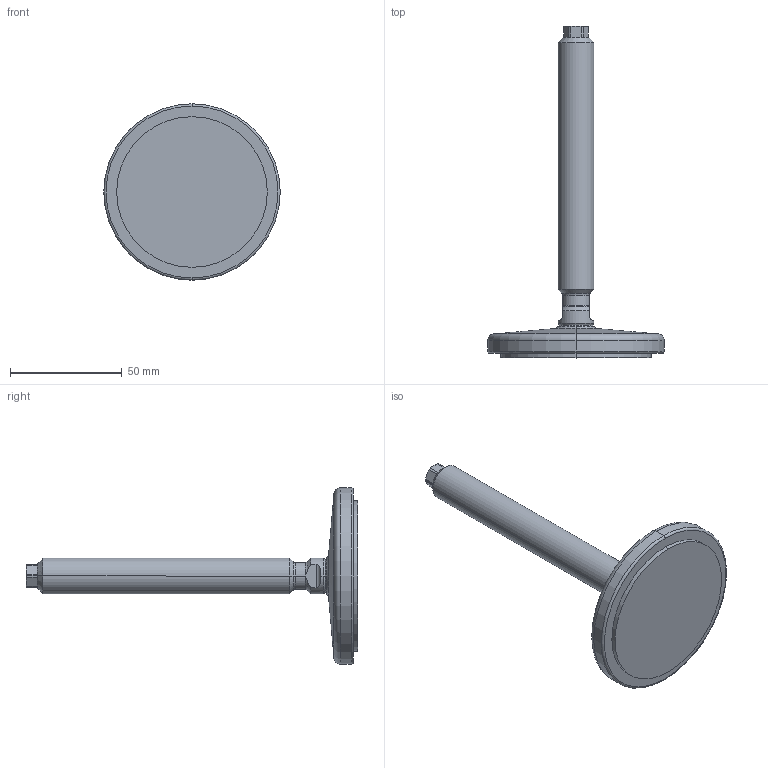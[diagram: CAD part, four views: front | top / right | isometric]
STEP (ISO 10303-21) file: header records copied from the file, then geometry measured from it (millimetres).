
FILE_DESCRIPTION (( 'STEP AP214' ), '1' );
FILE_NAME ('21-80-M16-125-D1-V.step', '2020-10-02T17:36:15', ( '' ), ( '' ), 'SwSTEP 2.0', 'SolidWorks 2019', '' );
FILE_SCHEMA (( 'AUTOMOTIVE_DESIGN' ));
Length unit declared in the file: millimetre
Products named in the file (3): 21-80-M16-125-D1-V; WB21_Spindel_V^WB21_V_M16-125; WB21_Fußteller 21^WB21_V_D1-080-R10-B7 (M8 M10_M12_M16)
Assembly tree (2 placements, depth 2):
  21-80-M16-125-D1-V
    WB21_Fußteller 21^WB21_V_D1-080-R10-B7 (M8 M10_M12_M16)
    WB21_Spindel_V^WB21_V_M16-125
Bounding box: 79 x 148.64 x 79 mm (x, y, z)
Volume: 79646.1 mm3; surface area: 19279.4 mm2
Topology: 2 solids, 2 shells, 76 faces, 171 edges, 101 vertices
Faces by surface type: cylinder 25, plane 20, cone 17, torus 10, sphere 4
Entity records: 2391 total; most frequent: CARTESIAN_POINT 509, DIRECTION 390, ORIENTED_EDGE 342, EDGE_CURVE 171, AXIS2_PLACEMENT_3D 166, VERTEX_POINT 101, CIRCLE 85, EDGE_LOOP 78
